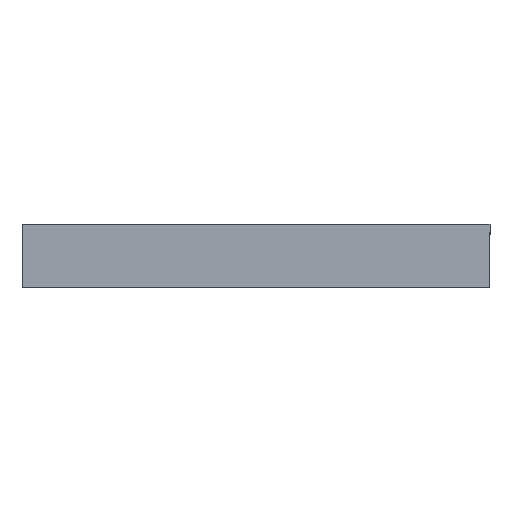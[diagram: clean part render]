
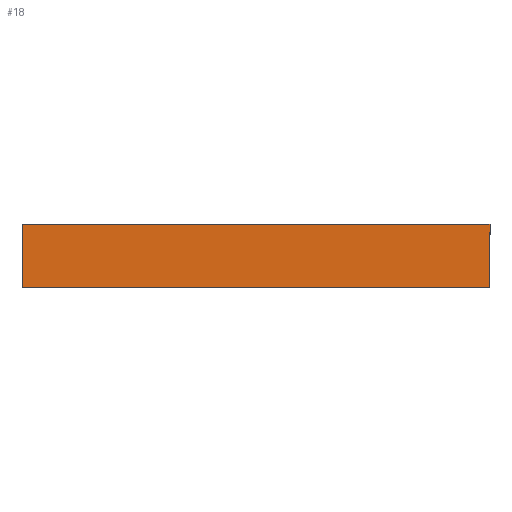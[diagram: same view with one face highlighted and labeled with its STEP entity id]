
A CAD part, left-side view. The second image highlights one B-rep face of the part: STEP entity #18.
In plain terms, the highlighted planar face has unit normal (-1, 0, 0).
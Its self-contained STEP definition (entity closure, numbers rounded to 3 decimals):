
#18 = ADVANCED_FACE ( 'NONE', ( #291 ), #800, .F. ) ;
#32 = EDGE_CURVE ( 'NONE', #772, #780, #276, .T. ) ;
#41 = AXIS2_PLACEMENT_3D ( 'NONE', #796, #787, #786 ) ;
#52 = EDGE_CURVE ( 'NONE', #814, #757, #247, .T. ) ;
#74 = EDGE_CURVE ( 'NONE', #780, #757, #218, .T. ) ;
#92 = EDGE_CURVE ( 'NONE', #772, #814, #185, .T. ) ;
#184 = VECTOR ( 'NONE', #622, 1000. ) ;
#185 = LINE ( 'NONE', #624, #184 ) ;
#211 = VECTOR ( 'NONE', #655, 1000. ) ;
#218 = LINE ( 'NONE', #661, #211 ) ;
#246 = VECTOR ( 'NONE', #705, 1000. ) ;
#247 = LINE ( 'NONE', #706, #246 ) ;
#271 = VECTOR ( 'NONE', #742, 1000. ) ;
#276 = LINE ( 'NONE', #746, #271 ) ;
#291 = FACE_OUTER_BOUND ( 'NONE', #318, .T. ) ;
#318 = EDGE_LOOP ( 'NONE', ( #397, #398, #399, #400 ) ) ;
#397 = ORIENTED_EDGE ( 'NONE', *, *, #52, .T. ) ;
#398 = ORIENTED_EDGE ( 'NONE', *, *, #74, .F. ) ;
#399 = ORIENTED_EDGE ( 'NONE', *, *, #32, .F. ) ;
#400 = ORIENTED_EDGE ( 'NONE', *, *, #92, .T. ) ;
#509 = CARTESIAN_POINT ( 'NONE',  ( -254., 479., 0. ) ) ;
#519 = CARTESIAN_POINT ( 'NONE',  ( -254., 0., 65. ) ) ;
#522 = CARTESIAN_POINT ( 'NONE',  ( -254., 479., 65. ) ) ;
#527 = CARTESIAN_POINT ( 'NONE',  ( -254., 0., 0. ) ) ;
#622 = DIRECTION ( 'NONE',  ( 0., 0., -1. ) ) ;
#624 = CARTESIAN_POINT ( 'NONE',  ( -254., 479., 65. ) ) ;
#655 = DIRECTION ( 'NONE',  ( 0., 0., -1. ) ) ;
#661 = CARTESIAN_POINT ( 'NONE',  ( -254., 0., 65. ) ) ;
#705 = DIRECTION ( 'NONE',  ( 0., -1., 0. ) ) ;
#706 = CARTESIAN_POINT ( 'NONE',  ( -254., 0., 0. ) ) ;
#742 = DIRECTION ( 'NONE',  ( 0., -1., 0. ) ) ;
#746 = CARTESIAN_POINT ( 'NONE',  ( -254., 0., 65. ) ) ;
#757 = VERTEX_POINT ( 'NONE', #527 ) ;
#772 = VERTEX_POINT ( 'NONE', #522 ) ;
#780 = VERTEX_POINT ( 'NONE', #519 ) ;
#786 = DIRECTION ( 'NONE',  ( 0., 1., 0. ) ) ;
#787 = DIRECTION ( 'NONE',  ( 1., 0., 0. ) ) ;
#796 = CARTESIAN_POINT ( 'NONE',  ( -254., 0., 65. ) ) ;
#800 = PLANE ( 'NONE',  #41 ) ;
#814 = VERTEX_POINT ( 'NONE', #509 ) ;
